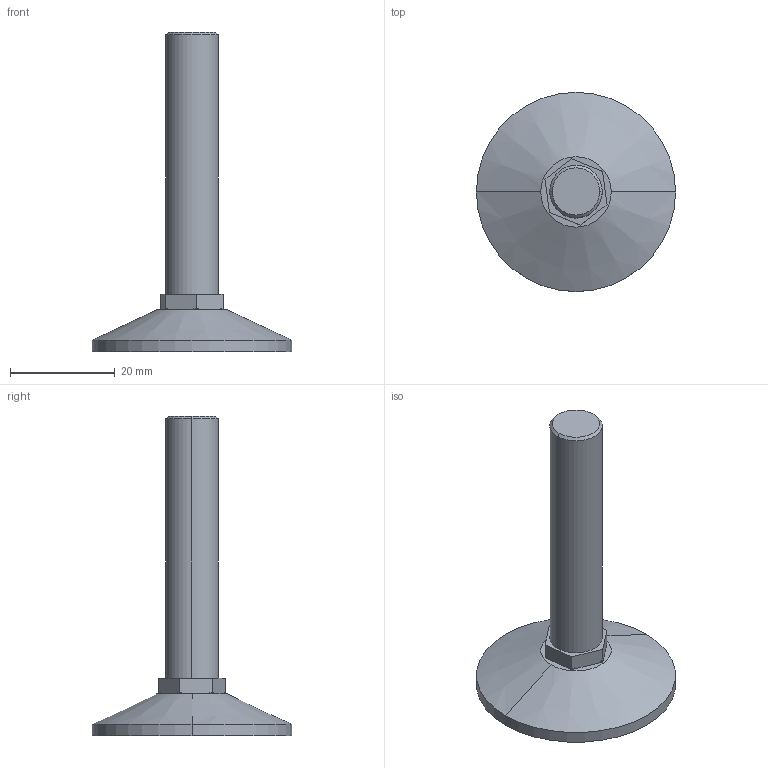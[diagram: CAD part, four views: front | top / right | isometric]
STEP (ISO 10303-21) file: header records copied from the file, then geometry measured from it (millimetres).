
FILE_DESCRIPTION (( 'STEP AP214' ), '1' );
FILE_NAME ('F 10.50 Îïîðà âèíòîâàÿ Ì10.STEP', '2024-03-11T15:04:37', ( '' ), ( '' ), 'SwSTEP 2.0', 'SolidWorks 2022', '' );
FILE_SCHEMA (( 'AUTOMOTIVE_DESIGN' ));
Length unit declared in the file: millimetre
Products named in the file (1): F 10.50 Опора винтовая М10
Bounding box: 38 x 38 x 61 mm (x, y, z)
Volume: 10005.1 mm3; surface area: 4317.3 mm2
Topology: 1 solids, 1 shells, 30 faces, 74 edges, 48 vertices
Faces by surface type: cone 16, plane 10, cylinder 4
Entity records: 1030 total; most frequent: CARTESIAN_POINT 225, ORIENTED_EDGE 148, DIRECTION 130, EDGE_CURVE 74, AXIS2_PLACEMENT_3D 49, VERTEX_POINT 48, LINE 32, VECTOR 32
